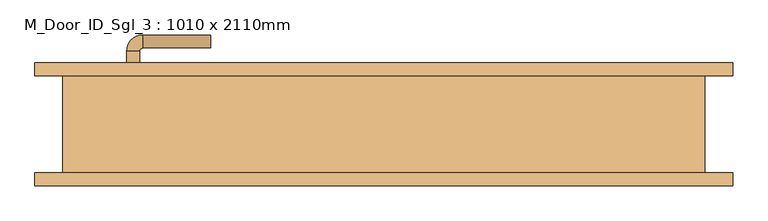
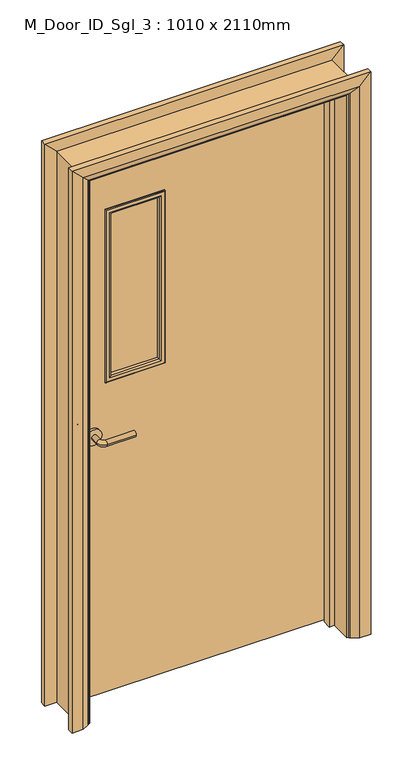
"""IFC4 building model written with IfcOpenShell, lengths in millimetres: door geometry, M_Door_ID_Sgl_3 : 1010 x 2110mm."""

import ifcopenshell
import ifcopenshell.guid

model = None  # the IFC model being written
_history = None  # IfcOwnerHistory: only IFC2X3 demands one
_inside = {}  # id of a spatial element -> (the spatial element, [elements in it])
_under = {}  # id of a project, library or spatial element -> (it, [spatial elements below it])
_declared = {}  # id of a project -> (the project, [libraries it declares])
_typed = {}  # id of a type object -> (the type object, [elements of that type])
_made_of = {}  # id of a material, layer set ... -> (it, [elements and type objects made of it])


def new_model(schema):
    """Start an empty IFC model of exactly this schema.

    Asked for "IFC4X3", IfcOpenShell would pick the latest addendum, in which some entities
    have other attributes; the version numbers below select the first issue.
    IFC2X3 requires an IfcOwnerHistory on every rooted entity: one is made here for all.
    """
    global model, _history
    if schema == "IFC4X3":
        model = ifcopenshell.file(schema_version=(4, 3, 0, 0))
    else:
        model = ifcopenshell.file(schema=schema)
    _inside.clear()
    _under.clear()
    _declared.clear()
    _typed.clear()
    _made_of.clear()
    _history = None
    if model.schema == "IFC2X3":
        org = make("IfcOrganization", Name="unknown")
        user = make(
            "IfcPersonAndOrganization",
            ThePerson=make("IfcPerson", FamilyName="unknown"),
            TheOrganization=org,
        )
        app = make(
            "IfcApplication",
            ApplicationDeveloper=org,
            Version="unknown",
            ApplicationFullName="unknown",
            ApplicationIdentifier="unknown",
        )
        _history = make(
            "IfcOwnerHistory",
            OwningUser=user,
            OwningApplication=app,
            ChangeAction="ADDED",
            CreationDate=0,
        )
    return model


def make(cls, **values):
    """One entity of the class cls with the attributes given. An attribute that is None is left unset."""
    return model.create_entity(
        cls, **{name: value for name, value in values.items() if value is not None}
    )


def rooted(cls, **values):
    """An entity with a GlobalId (a new one), such as an element, a storey or a relation."""
    return make(cls, GlobalId=ifcopenshell.guid.new(), OwnerHistory=_history, **values)


def si_unit(unit_type, name, prefix=None):
    """IfcSIUnit, for example si_unit("LENGTHUNIT", "METRE", prefix="MILLI")."""
    return make("IfcSIUnit", UnitType=unit_type, Prefix=prefix, Name=name)


def assignment(units):
    """IfcUnitAssignment: the units of a project."""
    return None if units is None else make("IfcUnitAssignment", Units=units)


def point(xyz):
    """IfcCartesianPoint."""
    return None if xyz is None else make("IfcCartesianPoint", Coordinates=xyz)


def direction(xyz):
    """IfcDirection."""
    return None if xyz is None else make("IfcDirection", DirectionRatios=xyz)


def frame(location, z_axis=None, x_axis=None):
    """IfcAxis2Placement3D, a coordinate frame: its origin and axes. An axis left out is left unset."""
    return make(
        "IfcAxis2Placement3D",
        Location=point(location),
        Axis=direction(z_axis),
        RefDirection=direction(x_axis),
    )


def frame_2d(location, x_axis=None):
    """IfcAxis2Placement2D, a coordinate frame in the plane: its origin and x axis."""
    return make(
        "IfcAxis2Placement2D", Location=point(location), RefDirection=direction(x_axis)
    )


def origin():
    """The frame at (0, 0, 0) with its axes left unset."""
    return frame((0.0, 0.0, 0.0))


def place(relative_to, where):
    """IfcLocalPlacement: puts the frame where relative to a parent placement (None: the world)."""
    return make(
        "IfcLocalPlacement", PlacementRelTo=relative_to, RelativePlacement=where
    )


def context(
    kind, dimensions, precision=None, world=None, true_north=None, identifier=None
):
    """IfcGeometricRepresentationContext, for example the 3D "Model" context."""
    return make(
        "IfcGeometricRepresentationContext",
        ContextIdentifier=identifier,
        ContextType=kind,
        CoordinateSpaceDimension=dimensions,
        Precision=precision,
        WorldCoordinateSystem=world,
        TrueNorth=true_north,
    )


def project(units=None, contexts=None):
    """IfcProject with its units and contexts."""
    return rooted(
        "IfcProject",
        Name="project",
        RepresentationContexts=contexts,
        UnitsInContext=assignment(units),
    )


def spatial(cls, under=None, at=None, **own):
    """A site, building, storey or space (cls), placed at a placement, below another one or the project."""
    s = rooted(cls, ObjectPlacement=at, **own)
    if under is not None:
        _under.setdefault(under.id(), (under, []))[1].append(s)
    return s


def polyline(points):
    """IfcPolyline through the points."""
    return make("IfcPolyline", Points=[point(p) for p in points])


def circle_curve(where, radius):
    """IfcCircle in the frame where."""
    return make("IfcCircle", Position=where, Radius=radius)


def ellipse_curve(where, semi_axis1, semi_axis2):
    """IfcEllipse in the frame where."""
    return make(
        "IfcEllipse", Position=where, SemiAxis1=semi_axis1, SemiAxis2=semi_axis2
    )


def trimmed(basis, trim1, trim2, sense, master):
    """IfcTrimmedCurve: the piece of a basis curve between two trims."""
    return make(
        "IfcTrimmedCurve",
        BasisCurve=basis,
        Trim1=trim1,
        Trim2=trim2,
        SenseAgreement=sense,
        MasterRepresentation=master,
    )


def segment(curve, same_sense, transition):
    """IfcCompositeCurveSegment."""
    return make(
        "IfcCompositeCurveSegment",
        Transition=transition,
        SameSense=same_sense,
        ParentCurve=curve,
    )


def composite_curve(segments, self_intersect=None):
    """IfcCompositeCurve: segments joined end to end."""
    return make("IfcCompositeCurve", Segments=segments, SelfIntersect=self_intersect)


def outline(outer, holes=None, kind="AREA"):
    """IfcArbitraryClosedProfileDef: a profile drawn as a closed curve; with holes, ...WithVoids."""
    if holes is None:
        return make("IfcArbitraryClosedProfileDef", ProfileType=kind, OuterCurve=outer)
    return make(
        "IfcArbitraryProfileDefWithVoids",
        ProfileType=kind,
        OuterCurve=outer,
        InnerCurves=holes,
    )


def extrude(swept, where, along, depth):
    """IfcExtrudedAreaSolid: the profile swept, set in the frame where, extruded along a direction by depth."""
    return make(
        "IfcExtrudedAreaSolid",
        SweptArea=swept,
        Position=where,
        ExtrudedDirection=direction(along),
        Depth=depth,
    )


def faces_of(points, faces, orient=None, outer=None):
    """IfcFace entities. A face is a list of loops; a loop is a list of indices into points, from 0.

    orient and outer hold one flag for each loop. By default every Orientation is true, the
    first loop of a face is its IfcFaceOuterBound and the others are IfcFaceBound.
    """
    made = []
    for i, loops in enumerate(faces):
        bounds = []
        for j, loop in enumerate(loops):
            is_outer = j == 0 if outer is None else outer[i][j]
            bounds.append(
                make(
                    "IfcFaceOuterBound" if is_outer else "IfcFaceBound",
                    Bound=make("IfcPolyLoop", Polygon=[points[k] for k in loop]),
                    Orientation=True if orient is None else orient[i][j],
                )
            )
        made.append(make("IfcFace", Bounds=bounds))
    return made


def faceted_brep(points, faces, orient=None, outer=None, voids=None):
    """IfcFacetedBrep: a solid bounded by flat faces; with voids (closed shells), ...WithVoids."""
    shared = [point(p) for p in points]
    hull = make("IfcClosedShell", CfsFaces=faces_of(shared, faces, orient, outer))
    if voids is None:
        return make("IfcFacetedBrep", Outer=hull)
    return make(
        "IfcFacetedBrepWithVoids",
        Outer=hull,
        Voids=[
            make(cls, CfsFaces=faces_of(shared, fs, o, b)) for cls, fs, o, b in voids
        ],
    )


def shape(context_of_items, identifier, shape_type, items):
    """IfcShapeRepresentation: the items that make up one representation, for example the "Body"."""
    return make(
        "IfcShapeRepresentation",
        ContextOfItems=context_of_items,
        RepresentationIdentifier=identifier,
        RepresentationType=shape_type,
        Items=items,
    )


def source(mapping_origin, context_of_items, identifier, shape_type, items):
    """IfcRepresentationMap: a shape defined once, which mapped items show again and again."""
    return make(
        "IfcRepresentationMap",
        MappingOrigin=mapping_origin,
        MappedRepresentation=shape(context_of_items, identifier, shape_type, items),
    )


def transform(
    local_origin,
    x_axis=None,
    y_axis=None,
    z_axis=None,
    scale=None,
    scale2=None,
    scale3=None,
    uniform=True,
):
    """IfcCartesianTransformationOperator3D, or its non-uniform kind. x_axis, y_axis, z_axis: its Axis1, 2, 3."""
    if uniform:
        return make(
            "IfcCartesianTransformationOperator3D",
            Axis1=direction(x_axis),
            Axis2=direction(y_axis),
            LocalOrigin=point(local_origin),
            Scale=scale,
            Axis3=direction(z_axis),
        )
    return make(
        "IfcCartesianTransformationOperator3DnonUniform",
        Axis1=direction(x_axis),
        Axis2=direction(y_axis),
        LocalOrigin=point(local_origin),
        Scale=scale,
        Axis3=direction(z_axis),
        Scale2=scale2,
        Scale3=scale3,
    )


def mapped(mapping_source, mapping_target):
    """IfcMappedItem: shows the shape of a source again, moved by a transform."""
    return make(
        "IfcMappedItem", MappingSource=mapping_source, MappingTarget=mapping_target
    )


def made_of(thing, what):
    """Note that an element or type object is made of a material, layer set ...; save() writes the relation."""
    if what is not None:
        _made_of.setdefault(what.id(), (what, []))[1].append(thing)
    return thing


def element(
    cls,
    number,
    at=None,
    inside=None,
    cuts=None,
    type_object=None,
    material=None,
    context=None,
    identifier="Body",
    shape_type=None,
    held_by="IfcProductDefinitionShape",
    body=None,
    shapes=None,
    **own,
):
    """One element of the class cls, such as IfcWall. Its Tag is "e" and its number.

    at: its placement. inside: the storey or other place that contains it. cuts: it is an
    opening in that element (IfcRelVoidsElement). A single representation is given by context,
    identifier, shape_type and body (its items); several are given by shapes. held_by: the class
    of the entity that holds the representations. save() writes the other relations.
    """
    e = rooted(cls, Tag="e%d" % number, ObjectPlacement=at, **own)
    if body is not None:
        shapes = [shape(context, identifier, shape_type, body)]
    if shapes is not None:
        e.Representation = make(held_by, Representations=shapes)
    if inside is not None:
        _inside.setdefault(inside.id(), (inside, []))[1].append(e)
    if cuts is not None:
        rooted(
            "IfcRelVoidsElement", RelatingBuildingElement=cuts, RelatedOpeningElement=e
        )
    if type_object is not None:
        _typed.setdefault(type_object.id(), (type_object, []))[1].append(e)
    return made_of(e, material)


def aggregate(whole, parts):
    """IfcRelAggregates: a whole, such as a stair, and the parts it consists of."""
    return rooted("IfcRelAggregates", RelatingObject=whole, RelatedObjects=parts)


def save(model, path):
    """Write the relations noted so far, then the file.

    IfcRelAggregates (storeys below a building ...), IfcRelContainedInSpatialStructure (elements
    in a storey), IfcRelDefinesByType, IfcRelAssociatesMaterial and IfcRelDeclares: one each for
    every whole, place, type object, material and project.
    """
    for whole, parts in _under.values():
        aggregate(whole, parts)
    for where, things in _inside.values():
        rooted(
            "IfcRelContainedInSpatialStructure",
            RelatedElements=things,
            RelatingStructure=where,
        )
    for kind, things in _typed.values():
        rooted("IfcRelDefinesByType", RelatedObjects=things, RelatingType=kind)
    for what, things in _made_of.values():
        rooted("IfcRelAssociatesMaterial", RelatedObjects=things, RelatingMaterial=what)
    for by, libraries in _declared.values():
        rooted("IfcRelDeclares", RelatingContext=by, RelatedDefinitions=libraries)
    model.write(path)


def plane_surface(at):
    """IfcPlane: the flat surface through the origin of the frame at, square to its z axis."""
    return make("IfcPlane", Position=at)


def cylinder_surface(at, radius):
    """IfcCylindricalSurface: all points at the distance radius from the z axis of the frame at."""
    return make("IfcCylindricalSurface", Position=at, Radius=radius)


def revolved_surface(curve, axis_point, axis_direction):
    """IfcSurfaceOfRevolution: the curve turned about the line through axis_point along axis_direction."""
    return make(
        "IfcSurfaceOfRevolution",
        SweptCurve=make("IfcArbitraryOpenProfileDef", ProfileType="CURVE", Curve=curve),
        AxisPosition=make("IfcAxis1Placement", Location=point(axis_point), Axis=direction(axis_direction)),
    )


def advanced_brep(points, edges, surfaces, faces):
    """IfcAdvancedBrep: a solid bounded by faces that lie on surfaces and meet in shared edges.

    An edge is (start, end): straight between two places in points (the first is 0);
    or (start, end, curve); or (start, end, curve, False) where it runs against its curve.
    A face is (place in surfaces, loops), or (place, loops, False) where it looks against
    its surface's normal. A loop lists edges by number (the first is 1), with a minus sign
    where the edge is run from its end to its start. The first loop is the outer one.
    """
    corners = [point(p) for p in points]
    vertices = [make("IfcVertexPoint", VertexGeometry=c) for c in corners]
    made = []
    for start, end, *more in edges:
        made.append(
            make(
                "IfcEdgeCurve",
                EdgeStart=vertices[start],
                EdgeEnd=vertices[end],
                EdgeGeometry=more[0] if more else make("IfcPolyline", Points=[corners[start], corners[end]]),
                SameSense=more[1] if len(more) > 1 else True,
            )
        )
    hull = []
    for where, loops, *sense in faces:
        bounds = []
        for j, loop in enumerate(loops):
            ring = [make("IfcOrientedEdge", EdgeElement=made[abs(k) - 1], Orientation=k > 0) for k in loop]
            bounds.append(
                make(
                    "IfcFaceOuterBound" if j == 0 else "IfcFaceBound",
                    Bound=make("IfcEdgeLoop", EdgeList=ring),
                    Orientation=True,
                )
            )
        hull.append(make("IfcAdvancedFace", Bounds=bounds, FaceSurface=surfaces[where], SameSense=sense[0] if sense else True))
    return make("IfcAdvancedBrep", Outer=make("IfcClosedShell", CfsFaces=hull))


def m_door_id_sgl_3_1010_x_2110mm_00445be7(model_context):
    return source(origin(), model_context, "Body", "SolidModel", [
        advanced_brep(
        [(-398.0, 29.0, 1000.0), (-378.0, 29.0, 1000.0), (-378.0, -1.0, 1000.0), (-398.0, -1.0, 1000.0), (-373.0, -6.0, 1000.0), (-373.0, -26.0, 1000.0), (-268.0, -26.0, 1000.0), (-268.0, -6.0, 1000.0)],
        [
            (0, 1, circle_curve(frame((-388.0, 29.0, 1000.0), z_axis=(0.0, 1.0, 0.0), x_axis=(1.0, 0.0, 0.0)), 10.0)),
            (1, 0, circle_curve(frame((-388.0, 29.0, 1000.0), z_axis=(0.0, 1.0, 0.0), x_axis=(1.0, 0.0, 0.0)), 10.0)),
            (1, 2),
            (2, 3, circle_curve(frame((-388.0, -1.0, 1000.0), z_axis=(0.0, 1.0, 0.0), x_axis=(1.0, 0.0, 0.0)), 10.0)),
            (3, 0),
            (3, 2, circle_curve(frame((-388.0, -1.0, 1000.0), z_axis=(0.0, 1.0, 0.0), x_axis=(1.0, 0.0, 0.0)), 10.0)),
            (4, 5, circle_curve(frame((-373.0, -16.0, 1000.0), z_axis=(-1.0, 0.0, 0.0), x_axis=(0.0, 1.0, 0.0)), 10.0)),
            (5, 3, circle_curve(frame((-373.0, -1.0, 1000.0), z_axis=(0.0, 0.0, -1.0), x_axis=(-1.0, 0.0, 0.0)), 25.0)),
            (2, 4, circle_curve(frame((-373.0, -1.0, 1000.0), z_axis=(0.0, 0.0, 1.0), x_axis=(-1.0, 0.0, 0.0)), 5.0)),
            (5, 4, circle_curve(frame((-373.0, -16.0, 1000.0), z_axis=(-1.0, 0.0, 0.0), x_axis=(0.0, 1.0, 0.0)), 10.0)),
            (6, 7, circle_curve(frame((-268.0, -16.0, 1000.0), z_axis=(1.0, 0.0, 0.0), x_axis=(0.0, 1.0, 0.0)), 10.0)),
            (7, 6, circle_curve(frame((-268.0, -16.0, 1000.0), z_axis=(1.0, 0.0, 0.0), x_axis=(0.0, 1.0, 0.0)), 10.0)),
            (4, 7),
            (6, 5),
        ],
        [
            plane_surface(frame((-388.0, 29.0, 1000.0), z_axis=(0.0, 1.0, 0.0), x_axis=(0.0, 0.0, 1.0))),
            cylinder_surface(frame((-388.0, 29.0, 1000.0), z_axis=(0.0, 1.0, 0.0), x_axis=(1.0, 0.0, 0.0)), 10.0),
            revolved_surface(trimmed(ellipse_curve(frame((-388.0, -1.0, 1000.0), z_axis=(0.0, -1.0, 0.0), x_axis=(1.0, 0.0, 0.0)), 10.0, 10.0), [point((-398.0, -1.0, 1000.0))], [point((-378.0, -1.0, 1000.0))], True, "CARTESIAN"), (-373.0, -1.0, 1000.0), (0.0, 0.0, -1.0)),
            revolved_surface(trimmed(ellipse_curve(frame((-388.0, -1.0, 1000.0), z_axis=(0.0, -1.0, 0.0), x_axis=(1.0, 0.0, 0.0)), 10.0, 10.0), [point((-378.0, -1.0, 1000.0))], [point((-398.0, -1.0, 1000.0))], True, "CARTESIAN"), (-373.0, -1.0, 1000.0), (0.0, 0.0, -1.0)),
            plane_surface(frame((-268.0, -16.0, 1000.0), z_axis=(1.0, 0.0, 0.0), x_axis=(0.0, 0.0, 1.0))),
            cylinder_surface(frame((-373.0, -16.0, 1000.0), z_axis=(-1.0, 0.0, 0.0), x_axis=(0.0, 1.0, 0.0)), 10.0),
        ],
        [
            (0, [[1, 2]]),
            (1, [[3, 4, 5, -2]]),
            (1, [[-5, 6, -3, -1]]),
            (2, [[7, 8, -4, 9]]),
            (3, [[10, -9, -6, -8]]),
            (4, [[11, 12]]),
            (5, [[13, -11, 14, -7]]),
            (5, [[-14, -12, -13, -10]]),
        ],
    ),
        extrude(outline(composite_curve([segment(trimmed(circle_curve(frame_2d((1000.0, -390.5)), 30.0), [point((1000.0, -420.5))], [point((1000.0, -360.5))], False, "CARTESIAN"), True, "CONTINUOUS"), segment(trimmed(circle_curve(frame_2d((1000.0, -390.5)), 30.0), [point((1000.0, -360.5))], [point((1000.0, -420.5))], False, "CARTESIAN"), True, "CONTINUOUS")], self_intersect=False)), frame((0.0, 29.0, 0.0), z_axis=(0.0, 1.0, 0.0), x_axis=(0.0, 0.0, 1.0)), (0.0, 0.0, 1.0), 8.0),
        advanced_brep(
        [(-398.0, 83.0, 1000.0), (-378.0, 83.0, 1000.0), (-398.0, 113.0, 1000.0), (-378.0, 113.0, 1000.0), (-373.0, 118.0, 1000.0), (-373.0, 138.0, 1000.0), (-268.0, 138.0, 1000.0), (-268.0, 118.0, 1000.0)],
        [
            (0, 1, circle_curve(frame((-388.0, 83.0, 1000.0), z_axis=(0.0, -1.0, 0.0), x_axis=(1.0, 0.0, 0.0)), 10.0)),
            (1, 0, circle_curve(frame((-388.0, 83.0, 1000.0), z_axis=(0.0, -1.0, 0.0), x_axis=(1.0, 0.0, 0.0)), 10.0)),
            (0, 2),
            (2, 3, circle_curve(frame((-388.0, 113.0, 1000.0), z_axis=(0.0, -1.0, 0.0), x_axis=(1.0, 0.0, 0.0)), 10.0)),
            (3, 1),
            (3, 2, circle_curve(frame((-388.0, 113.0, 1000.0), z_axis=(0.0, -1.0, 0.0), x_axis=(1.0, 0.0, 0.0)), 10.0)),
            (4, 3, circle_curve(frame((-373.0, 113.0, 1000.0), z_axis=(0.0, 0.0, 1.0), x_axis=(-1.0, 0.0, 0.0)), 5.0)),
            (2, 5, circle_curve(frame((-373.0, 113.0, 1000.0), z_axis=(0.0, 0.0, -1.0), x_axis=(-1.0, 0.0, 0.0)), 25.0)),
            (5, 4, circle_curve(frame((-373.0, 128.0, 1000.0), z_axis=(-1.0, 0.0, 0.0), x_axis=(0.0, -1.0, 0.0)), 10.0)),
            (4, 5, circle_curve(frame((-373.0, 128.0, 1000.0), z_axis=(-1.0, 0.0, 0.0), x_axis=(0.0, -1.0, 0.0)), 10.0)),
            (6, 7, circle_curve(frame((-268.0, 128.0, 1000.0), z_axis=(1.0, 0.0, 0.0), x_axis=(0.0, -1.0, 0.0)), 10.0)),
            (7, 6, circle_curve(frame((-268.0, 128.0, 1000.0), z_axis=(1.0, 0.0, 0.0), x_axis=(0.0, -1.0, 0.0)), 10.0)),
            (5, 6),
            (7, 4),
        ],
        [
            plane_surface(frame((-388.0, 83.0, 1000.0), z_axis=(0.0, -1.0, 0.0), x_axis=(0.0, 0.0, 1.0))),
            cylinder_surface(frame((-388.0, 83.0, 1000.0), z_axis=(0.0, -1.0, 0.0), x_axis=(1.0, 0.0, 0.0)), 10.0),
            revolved_surface(trimmed(ellipse_curve(frame((-388.0, 113.0, 1000.0), z_axis=(0.0, -1.0, 0.0), x_axis=(1.0, 0.0, 0.0)), 10.0, 10.0), [point((-398.0, 113.0, 1000.0))], [point((-378.0, 113.0, 1000.0))], True, "CARTESIAN"), (-373.0, 113.0, 1000.0), (0.0, 0.0, -1.0)),
            revolved_surface(trimmed(ellipse_curve(frame((-388.0, 113.0, 1000.0), z_axis=(0.0, -1.0, 0.0), x_axis=(1.0, 0.0, 0.0)), 10.0, 10.0), [point((-378.0, 113.0, 1000.0))], [point((-398.0, 113.0, 1000.0))], True, "CARTESIAN"), (-373.0, 113.0, 1000.0), (0.0, 0.0, -1.0)),
            plane_surface(frame((-268.0, 128.0, 1000.0), z_axis=(1.0, 0.0, 0.0), x_axis=(0.0, 0.0, 1.0))),
            cylinder_surface(frame((-373.0, 128.0, 1000.0), z_axis=(-1.0, 0.0, 0.0), x_axis=(0.0, -1.0, 0.0)), 10.0),
        ],
        [
            (0, [[1, 2]]),
            (1, [[-1, 3, 4, 5]]),
            (1, [[-2, -5, 6, -3]]),
            (2, [[7, -4, 8, 9]]),
            (3, [[-8, -6, -7, 10]]),
            (4, [[11, 12]]),
            (5, [[-9, 13, -12, 14]]),
            (5, [[-10, -14, -11, -13]]),
        ],
    ),
        extrude(outline(composite_curve([segment(trimmed(circle_curve(frame_2d((1000.0, -390.5)), 30.0), [point((1000.0, -420.5))], [point((1000.0, -360.5))], False, "CARTESIAN"), True, "CONTINUOUS"), segment(trimmed(circle_curve(frame_2d((1000.0, -390.5)), 30.0), [point((1000.0, -360.5))], [point((1000.0, -420.5))], False, "CARTESIAN"), True, "CONTINUOUS")], self_intersect=False)), frame((0.0, 75.0, 0.0), z_axis=(0.0, 1.0, 0.0), x_axis=(0.0, 0.0, 1.0)), (0.0, 0.0, 1.0), 8.0),
        extrude(outline(polyline([(2068.0, -463.0), (8.0, -463.0), (8.0, 463.0), (2068.0, 463.0), (2068.0, -463.0)]), holes=[polyline([(1843.0, -138.0), (1200.0, -138.0), (1200.0, -338.0), (1843.0, -338.0), (1843.0, -138.0)])]), frame((0.0, 37.0, 0.0), z_axis=(0.0, 1.0, 0.0), x_axis=(0.0, 0.0, 1.0)), (0.0, 0.0, 1.0), 38.0),
        faceted_brep([(-465.0, 75.0, 0.0), (-465.0, -75.0, 0.0), (-497.0, -75.0, 0.0), (-497.0, 75.0, 0.0), (-465.0, 75.0, 2070.0), (-465.0, -75.0, 2070.0), (-497.0, -75.0, 2102.0), (-497.0, 75.0, 2102.0), (465.0, 75.0, 0.0), (497.0, 75.0, 0.0), (497.0, -75.0, 0.0), (465.0, -75.0, 0.0), (465.0, 75.0, 2070.0), (497.0, 75.0, 2102.0), (497.0, -75.0, 2102.0), (465.0, -75.0, 2070.0)], [[[0, 1, 2, 3]], [[1, 0, 4, 5]], [[2, 1, 5, 6]], [[3, 2, 6, 7]], [[0, 3, 7, 4]], [[8, 9, 10, 11]], [[12, 13, 9, 8]], [[13, 14, 10, 9]], [[14, 15, 11, 10]], [[15, 12, 8, 11]], [[5, 4, 12, 15]], [[6, 5, 15, 14]], [[7, 6, 14, 13]], [[4, 7, 13, 12]]]),
        advanced_brep(
        [(-540.0, -95.0, 0.0), (-540.0, -75.0, 0.0), (-470.0, -75.0, 0.0), (-474.0, -81.0, 0.0), (-500.0, -95.0, 0.0), (-540.0, -95.0, 2145.0), (-540.0, -75.0, 2145.0), (-470.0, -75.0, 2075.0), (-474.0, -81.0, 2079.0), (-500.0, -95.0, 2105.0), (540.0, -95.0, 0.0), (500.0, -95.0, 0.0), (474.0, -81.0, 0.0), (470.0, -75.0, 0.0), (540.0, -75.0, 0.0), (540.0, -95.0, 2145.0), (500.0, -95.0, 2105.0), (474.0, -81.0, 2079.0), (470.0, -75.0, 2075.0), (540.0, -75.0, 2145.0)],
        [
            (0, 1),
            (1, 2),
            (2, 3, circle_curve(frame((-478.0, -74.0, 0.0), z_axis=(0.0, 0.0, -1.0), x_axis=(-1.0, 0.0, 0.0)), 8.0622577)),
            (3, 4),
            (4, 0),
            (0, 5),
            (5, 6),
            (6, 1),
            (6, 7),
            (7, 2),
            (7, 8, ellipse_curve(frame((-478.0, -74.0, 2083.0), z_axis=(-0.7071067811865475, 0.0, -0.7071067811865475), x_axis=(0.7071067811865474, 0.0, -0.7071067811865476)), 11.4017543, 8.0622577)),
            (8, 3),
            (8, 9),
            (9, 4),
            (9, 5),
            (10, 11),
            (11, 12),
            (12, 13, circle_curve(frame((478.0, -74.0, 0.0), z_axis=(0.0, 0.0, -1.0), x_axis=(1.0, 0.0, 0.0)), 8.0622577)),
            (13, 14),
            (14, 10),
            (15, 16),
            (16, 11),
            (10, 15),
            (16, 17),
            (17, 12),
            (17, 18, ellipse_curve(frame((478.0, -74.0, 2083.0), z_axis=(0.7071067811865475, 0.0, -0.7071067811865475), x_axis=(0.7071067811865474, 0.0, 0.7071067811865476)), 11.4017543, 8.0622577)),
            (18, 13),
            (18, 19),
            (19, 14),
            (19, 15),
            (5, 15),
            (19, 6),
            (18, 7),
            (17, 8),
            (16, 9),
        ],
        [
            plane_surface(frame((-470.0, -147.8010989, 0.0), z_axis=(0.0, 0.0, -1.0), x_axis=(1.0, 0.0, 0.0))),
            plane_surface(frame((-540.0, -95.0, 0.0), z_axis=(-1.0, 0.0, 0.0), x_axis=(0.0, 0.0, 1.0))),
            plane_surface(frame((-540.0, -75.0, 0.0), z_axis=(0.0, 1.0, 0.0), x_axis=(0.0, 0.0, 1.0))),
            cylinder_surface(frame((-478.0, -74.0, 0.0), z_axis=(0.0, 0.0, -1.0), x_axis=(-1.0, 0.0, 0.0)), 8.0622577),
            plane_surface(frame((-474.0, -81.0, 0.0), z_axis=(0.4740998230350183, -0.8804710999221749, 0.0), x_axis=(0.0, 0.0, 1.0))),
            plane_surface(frame((-500.0, -95.0, 0.0), z_axis=(0.0, -1.0, 0.0), x_axis=(0.0, 0.0, 1.0))),
            plane_surface(frame((470.0, -147.8010989, 0.0), z_axis=(0.0, 0.0, -1.0), x_axis=(-1.0, 0.0, 0.0))),
            plane_surface(frame((500.0, -95.0, 2105.0), z_axis=(0.0, -1.0, 0.0), x_axis=(0.0, 0.0, -1.0))),
            plane_surface(frame((474.0, -81.0, 2079.0), z_axis=(-0.4740998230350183, -0.8804710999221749, 0.0), x_axis=(0.0, 0.0, -1.0))),
            cylinder_surface(frame((478.0, -74.0, 2075.0), z_axis=(0.0, 0.0, 1.0), x_axis=(1.0, 0.0, 0.0)), 8.0622577),
            plane_surface(frame((540.0, -75.0, 2145.0), z_axis=(0.0, 1.0, 0.0), x_axis=(0.0, 0.0, -1.0))),
            plane_surface(frame((540.0, -95.0, 2145.0), z_axis=(1.0, 0.0, 0.0), x_axis=(0.0, 0.0, -1.0))),
            plane_surface(frame((-540.0, -95.0, 2145.0), z_axis=(0.0, 0.0, 1.0), x_axis=(1.0, 0.0, 0.0))),
            plane_surface(frame((-540.0, -75.0, 2145.0), z_axis=(0.0, 1.0, 0.0), x_axis=(1.0, 0.0, 0.0))),
            cylinder_surface(frame((-470.0, -74.0, 2083.0), z_axis=(-1.0, 0.0, 0.0), x_axis=(0.0, 0.0, 1.0)), 8.0622577),
            plane_surface(frame((-474.0, -81.0, 2079.0), z_axis=(0.0, -0.8804710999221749, -0.4740998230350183), x_axis=(1.0, 0.0, 0.0))),
            plane_surface(frame((-500.0, -95.0, 2105.0), z_axis=(0.0, -1.0, 0.0), x_axis=(1.0, 0.0, 0.0))),
        ],
        [
            (0, [[1, 2, 3, 4, 5]]),
            (1, [[-1, 6, 7, 8]]),
            (2, [[-2, -8, 9, 10]]),
            (3, [[-3, -10, 11, 12]]),
            (4, [[-4, -12, 13, 14]]),
            (5, [[-5, -14, 15, -6]]),
            (6, [[16, 17, 18, 19, 20]]),
            (7, [[21, 22, -16, 23]]),
            (8, [[24, 25, -17, -22]]),
            (9, [[26, 27, -18, -25]]),
            (10, [[28, 29, -19, -27]]),
            (11, [[30, -23, -20, -29]]),
            (12, [[-7, 31, -30, 32]]),
            (13, [[-9, -32, -28, 33]]),
            (14, [[-11, -33, -26, 34]]),
            (15, [[-13, -34, -24, 35]]),
            (16, [[-15, -35, -21, -31]]),
        ],
    ),
        advanced_brep(
        [(-540.0, 95.0, 0.0), (-500.0, 95.0, 0.0), (-474.0, 81.0, 0.0), (-470.0, 75.0, 0.0), (-540.0, 75.0, 0.0), (-540.0, 95.0, 2145.0), (-500.0, 95.0, 2105.0), (-474.0, 81.0, 2079.0), (-470.0, 75.0, 2075.0), (-540.0, 75.0, 2145.0), (540.0, 95.0, 0.0), (540.0, 75.0, 0.0), (470.0, 75.0, 0.0), (474.0, 81.0, 0.0), (500.0, 95.0, 0.0), (540.0, 95.0, 2145.0), (540.0, 75.0, 2145.0), (470.0, 75.0, 2075.0), (474.0, 81.0, 2079.0), (500.0, 95.0, 2105.0)],
        [
            (0, 1),
            (1, 2),
            (2, 3, circle_curve(frame((-478.0, 74.0, 0.0), z_axis=(0.0, 0.0, -1.0), x_axis=(-1.0, 0.0, 0.0)), 8.0622577)),
            (3, 4),
            (4, 0),
            (0, 5),
            (5, 6),
            (6, 1),
            (6, 7),
            (7, 2),
            (7, 8, ellipse_curve(frame((-478.0, 74.0, 2083.0), z_axis=(-0.7071067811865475, 0.0, -0.7071067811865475), x_axis=(0.7071067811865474, 0.0, -0.7071067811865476)), 11.4017543, 8.0622577)),
            (8, 3),
            (8, 9),
            (9, 4),
            (9, 5),
            (10, 11),
            (11, 12),
            (12, 13, circle_curve(frame((478.0, 74.0, 0.0), z_axis=(0.0, 0.0, -1.0), x_axis=(1.0, 0.0, 0.0)), 8.0622577)),
            (13, 14),
            (14, 10),
            (15, 16),
            (16, 11),
            (10, 15),
            (16, 17),
            (17, 12),
            (17, 18, ellipse_curve(frame((478.0, 74.0, 2083.0), z_axis=(0.7071067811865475, 0.0, -0.7071067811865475), x_axis=(0.7071067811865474, 0.0, 0.7071067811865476)), 11.4017543, 8.0622577)),
            (18, 13),
            (18, 19),
            (19, 14),
            (19, 15),
            (5, 15),
            (19, 6),
            (18, 7),
            (17, 8),
            (16, 9),
        ],
        [
            plane_surface(frame((-470.0, 2.1989011, 0.0), z_axis=(0.0, 0.0, -1.0), x_axis=(1.0, 0.0, 0.0))),
            plane_surface(frame((-540.0, 95.0, 0.0), z_axis=(0.0, 1.0, 0.0), x_axis=(0.0, 0.0, 1.0))),
            plane_surface(frame((-500.0, 95.0, 0.0), z_axis=(0.4740998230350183, 0.8804710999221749, 0.0), x_axis=(0.0, 0.0, 1.0))),
            cylinder_surface(frame((-478.0, 74.0, 0.0), z_axis=(0.0, 0.0, -1.0), x_axis=(-1.0, 0.0, 0.0)), 8.0622577),
            plane_surface(frame((-470.0, 75.0, 0.0), z_axis=(0.0, -1.0, 0.0), x_axis=(0.0, 0.0, 1.0))),
            plane_surface(frame((-540.0, 75.0, 0.0), z_axis=(-1.0, 0.0, 0.0), x_axis=(0.0, 0.0, 1.0))),
            plane_surface(frame((470.0, 2.1989011, 0.0), z_axis=(0.0, 0.0, -1.0), x_axis=(-1.0, 0.0, 0.0))),
            plane_surface(frame((540.0, 75.0, 2145.0), z_axis=(1.0, 0.0, 0.0), x_axis=(0.0, 0.0, -1.0))),
            plane_surface(frame((470.0, 75.0, 2075.0), z_axis=(0.0, -1.0, 0.0), x_axis=(0.0, 0.0, -1.0))),
            cylinder_surface(frame((478.0, 74.0, 2075.0), z_axis=(0.0, 0.0, 1.0), x_axis=(1.0, 0.0, 0.0)), 8.0622577),
            plane_surface(frame((500.0, 95.0, 2105.0), z_axis=(-0.4740998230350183, 0.8804710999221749, 0.0), x_axis=(0.0, 0.0, -1.0))),
            plane_surface(frame((540.0, 95.0, 2145.0), z_axis=(0.0, 1.0, 0.0), x_axis=(0.0, 0.0, -1.0))),
            plane_surface(frame((-540.0, 95.0, 2145.0), z_axis=(0.0, 1.0, 0.0), x_axis=(1.0, 0.0, 0.0))),
            plane_surface(frame((-500.0, 95.0, 2105.0), z_axis=(0.0, 0.8804710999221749, -0.4740998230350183), x_axis=(1.0, 0.0, 0.0))),
            cylinder_surface(frame((-470.0, 74.0, 2083.0), z_axis=(-1.0, 0.0, 0.0), x_axis=(0.0, 0.0, 1.0)), 8.0622577),
            plane_surface(frame((-470.0, 75.0, 2075.0), z_axis=(0.0, -1.0, 0.0), x_axis=(1.0, 0.0, 0.0))),
            plane_surface(frame((-540.0, 75.0, 2145.0), z_axis=(0.0, 0.0, 1.0), x_axis=(1.0, 0.0, 0.0))),
        ],
        [
            (0, [[1, 2, 3, 4, 5]]),
            (1, [[-1, 6, 7, 8]]),
            (2, [[-2, -8, 9, 10]]),
            (3, [[-3, -10, 11, 12]]),
            (4, [[-4, -12, 13, 14]]),
            (5, [[-5, -14, 15, -6]]),
            (6, [[16, 17, 18, 19, 20]]),
            (7, [[21, 22, -16, 23]]),
            (8, [[24, 25, -17, -22]]),
            (9, [[26, 27, -18, -25]]),
            (10, [[28, 29, -19, -27]]),
            (11, [[30, -23, -20, -29]]),
            (12, [[-7, 31, -30, 32]]),
            (13, [[-9, -32, -28, 33]]),
            (14, [[-11, -33, -26, 34]]),
            (15, [[-13, -34, -24, 35]]),
            (16, [[-15, -35, -21, -31]]),
        ],
    ),
        extrude(outline(polyline([(0.0, -465.0), (0.0, -446.0), (2051.0, -446.0), (2051.0, 446.0), (0.0, 446.0), (0.0, 465.0), (2070.0, 465.0), (2070.0, -465.0), (0.0, -465.0)])), frame((0.0, 3.0, 0.0), z_axis=(0.0, 1.0, 0.0), x_axis=(0.0, 0.0, 1.0)), (0.0, 0.0, 1.0), 32.0),
        advanced_brep(
        [(-130.0, 79.0, 1851.0), (-130.0, 75.0, 1851.0), (-130.0, 75.0, 1192.0), (-130.0, 79.0, 1192.0), (-132.0, 81.0, 1849.0), (-132.0, 81.0, 1194.0), (-150.0, 76.0, 1831.0), (-145.0, 81.0, 1836.0), (-145.0, 81.0, 1207.0), (-150.0, 76.0, 1212.0), (-150.0, 65.0, 1831.0), (-150.0, 65.0, 1212.0), (-138.0, 75.0, 1843.0), (-138.0, 65.0, 1843.0), (-138.0, 65.0, 1200.0), (-138.0, 75.0, 1200.0), (-346.0, 75.0, 1192.0), (-346.0, 79.0, 1192.0), (-344.0, 81.0, 1194.0), (-331.0, 81.0, 1207.0), (-326.0, 76.0, 1212.0), (-326.0, 65.0, 1212.0), (-338.0, 65.0, 1200.0), (-338.0, 75.0, 1200.0), (-346.0, 75.0, 1851.0), (-346.0, 79.0, 1851.0), (-344.0, 81.0, 1849.0), (-331.0, 81.0, 1836.0), (-326.0, 76.0, 1831.0), (-326.0, 65.0, 1831.0), (-338.0, 65.0, 1843.0), (-338.0, 75.0, 1843.0)],
        [
            (0, 1),
            (1, 2),
            (2, 3),
            (3, 0),
            (4, 0, ellipse_curve(frame((-132.0, 79.0, 1849.0), z_axis=(0.7071067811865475, 0.0, -0.7071067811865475), x_axis=(0.7071067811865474, 0.0, 0.7071067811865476)), 2.8284271, 2.0)),
            (3, 5, ellipse_curve(frame((-132.0, 79.0, 1194.0), z_axis=(0.7071067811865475, 0.0, 0.7071067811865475), x_axis=(-0.7071067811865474, 0.0, 0.7071067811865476)), 2.8284271, 2.0)),
            (5, 4),
            (6, 7, ellipse_curve(frame((-145.0, 76.0, 1836.0), z_axis=(0.7071067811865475, 0.0, -0.7071067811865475), x_axis=(0.7071067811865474, 0.0, 0.7071067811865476)), 7.0710678, 5.0)),
            (7, 8),
            (8, 9, ellipse_curve(frame((-145.0, 76.0, 1207.0), z_axis=(0.7071067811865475, 0.0, 0.7071067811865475), x_axis=(-0.7071067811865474, 0.0, 0.7071067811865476)), 7.0710678, 5.0)),
            (9, 6),
            (10, 6),
            (9, 11),
            (11, 10),
            (12, 13),
            (13, 14),
            (14, 15),
            (15, 12),
            (2, 16),
            (16, 17),
            (17, 3),
            (17, 18, ellipse_curve(frame((-344.0, 79.0, 1194.0), z_axis=(0.7071067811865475, 0.0, -0.7071067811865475), x_axis=(0.7071067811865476, 0.0, 0.7071067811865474)), 2.8284271, 2.0)),
            (18, 5),
            (8, 19),
            (19, 20, ellipse_curve(frame((-331.0, 76.0, 1207.0), z_axis=(0.7071067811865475, 0.0, -0.7071067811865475), x_axis=(0.7071067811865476, 0.0, 0.7071067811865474)), 7.0710678, 5.0)),
            (20, 9),
            (20, 21),
            (21, 11),
            (14, 22),
            (22, 23),
            (23, 15),
            (16, 24),
            (24, 25),
            (25, 17),
            (25, 26, ellipse_curve(frame((-344.0, 79.0, 1849.0), z_axis=(-0.7071067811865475, 0.0, -0.7071067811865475), x_axis=(0.7071067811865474, 0.0, -0.7071067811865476)), 2.8284271, 2.0)),
            (26, 18),
            (19, 27),
            (27, 28, ellipse_curve(frame((-331.0, 76.0, 1836.0), z_axis=(-0.7071067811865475, 0.0, -0.7071067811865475), x_axis=(0.7071067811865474, 0.0, -0.7071067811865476)), 7.0710678, 5.0)),
            (28, 20),
            (28, 29),
            (29, 21),
            (22, 30),
            (30, 31),
            (31, 23),
            (24, 1),
            (0, 25),
            (4, 26),
            (7, 27),
            (6, 28),
            (10, 29),
            (13, 30),
            (12, 31),
        ],
        [
            plane_surface(frame((-130.0, 75.0, 1851.0), z_axis=(1.0, 0.0, 0.0), x_axis=(0.0, 0.0, -1.0))),
            cylinder_surface(frame((-132.0, 79.0, 1843.0), z_axis=(0.0, 0.0, 1.0), x_axis=(1.0, 0.0, 0.0)), 2.0),
            cylinder_surface(frame((-145.0, 76.0, 1843.0), z_axis=(0.0, 0.0, 1.0), x_axis=(1.0, 0.0, 0.0)), 5.0),
            plane_surface(frame((-150.0, 76.0, 1831.0), z_axis=(-1.0, 0.0, 0.0), x_axis=(0.0, 0.0, -1.0))),
            plane_surface(frame((-138.0, 65.0, 1843.0), z_axis=(1.0, 0.0, 0.0), x_axis=(0.0, 0.0, -1.0))),
            plane_surface(frame((-130.0, 75.0, 1192.0), z_axis=(0.0, 0.0, -1.0), x_axis=(-1.0, 0.0, 0.0))),
            cylinder_surface(frame((-138.0, 79.0, 1194.0), z_axis=(1.0, 0.0, 0.0), x_axis=(0.0, 0.0, -1.0)), 2.0),
            cylinder_surface(frame((-138.0, 76.0, 1207.0), z_axis=(1.0, 0.0, 0.0), x_axis=(0.0, 0.0, -1.0)), 5.0),
            plane_surface(frame((-150.0, 76.0, 1212.0), z_axis=(0.0, 0.0, 1.0), x_axis=(-1.0, 0.0, 0.0))),
            plane_surface(frame((-138.0, 65.0, 1200.0), z_axis=(0.0, 0.0, -1.0), x_axis=(-1.0, 0.0, 0.0))),
            plane_surface(frame((-346.0, 75.0, 1192.0), z_axis=(-1.0, 0.0, 0.0), x_axis=(0.0, 0.0, 1.0))),
            cylinder_surface(frame((-344.0, 79.0, 1200.0), z_axis=(0.0, 0.0, -1.0), x_axis=(-1.0, 0.0, 0.0)), 2.0),
            cylinder_surface(frame((-331.0, 76.0, 1200.0), z_axis=(0.0, 0.0, -1.0), x_axis=(-1.0, 0.0, 0.0)), 5.0),
            plane_surface(frame((-326.0, 76.0, 1212.0), z_axis=(1.0, 0.0, 0.0), x_axis=(0.0, 0.0, 1.0))),
            plane_surface(frame((-338.0, 65.0, 1200.0), z_axis=(-1.0, 0.0, 0.0), x_axis=(0.0, 0.0, 1.0))),
            plane_surface(frame((-346.0, 75.0, 1851.0), z_axis=(0.0, 0.0, 1.0), x_axis=(1.0, 0.0, 0.0))),
            cylinder_surface(frame((-338.0, 79.0, 1849.0), z_axis=(-1.0, 0.0, 0.0), x_axis=(0.0, 0.0, 1.0)), 2.0),
            plane_surface(frame((-344.0, 81.0, 1849.0), z_axis=(0.0, 1.0, 0.0), x_axis=(1.0, 0.0, 0.0))),
            cylinder_surface(frame((-338.0, 76.0, 1836.0), z_axis=(-1.0, 0.0, 0.0), x_axis=(0.0, 0.0, 1.0)), 5.0),
            plane_surface(frame((-326.0, 76.0, 1831.0), z_axis=(0.0, 0.0, -1.0), x_axis=(1.0, 0.0, 0.0))),
            plane_surface(frame((-326.0, 65.0, 1831.0), z_axis=(0.0, -1.0, 0.0), x_axis=(1.0, 0.0, 0.0))),
            plane_surface(frame((-338.0, 65.0, 1843.0), z_axis=(0.0, 0.0, 1.0), x_axis=(1.0, 0.0, 0.0))),
            plane_surface(frame((-338.0, 75.0, 1843.0), z_axis=(0.0, -1.0, 0.0), x_axis=(1.0, 0.0, 0.0))),
        ],
        [
            (0, [[1, 2, 3, 4]]),
            (1, [[5, -4, 6, 7]]),
            (2, [[8, 9, 10, 11]]),
            (3, [[12, -11, 13, 14]]),
            (4, [[15, 16, 17, 18]]),
            (5, [[-3, 19, 20, 21]]),
            (6, [[-6, -21, 22, 23]]),
            (7, [[-10, 24, 25, 26]]),
            (8, [[-13, -26, 27, 28]]),
            (9, [[-17, 29, 30, 31]]),
            (10, [[-20, 32, 33, 34]]),
            (11, [[-22, -34, 35, 36]]),
            (12, [[-25, 37, 38, 39]]),
            (13, [[-27, -39, 40, 41]]),
            (14, [[-30, 42, 43, 44]]),
            (15, [[-33, 45, -1, 46]]),
            (16, [[-35, -46, -5, 47]]),
            (17, [[-23, -36, -47, -7], [48, -37, -24, -9]]),
            (18, [[-38, -48, -8, 49]]),
            (19, [[-40, -49, -12, 50]]),
            (20, [[51, -42, -29, -16], [-28, -41, -50, -14]]),
            (21, [[-43, -51, -15, 52]]),
            (22, [[-45, -32, -19, -2], [-31, -44, -52, -18]]),
        ],
    ),
        advanced_brep(
        [(-138.0, 47.0, 1843.0), (-138.0, 37.0, 1843.0), (-138.0, 37.0, 1200.0), (-138.0, 47.0, 1200.0), (-150.0, 36.0, 1831.0), (-150.0, 47.0, 1831.0), (-150.0, 47.0, 1212.0), (-150.0, 36.0, 1212.0), (-145.0, 31.0, 1836.0), (-145.0, 31.0, 1207.0), (-130.0, 33.0, 1851.0), (-132.0, 31.0, 1849.0), (-132.0, 31.0, 1194.0), (-130.0, 33.0, 1192.0), (-130.0, 37.0, 1851.0), (-130.0, 37.0, 1192.0), (-338.0, 37.0, 1200.0), (-338.0, 47.0, 1200.0), (-326.0, 47.0, 1212.0), (-326.0, 36.0, 1212.0), (-331.0, 31.0, 1207.0), (-344.0, 31.0, 1194.0), (-346.0, 33.0, 1192.0), (-346.0, 37.0, 1192.0), (-338.0, 37.0, 1843.0), (-338.0, 47.0, 1843.0), (-326.0, 47.0, 1831.0), (-326.0, 36.0, 1831.0), (-331.0, 31.0, 1836.0), (-344.0, 31.0, 1849.0), (-346.0, 33.0, 1851.0), (-346.0, 37.0, 1851.0)],
        [
            (0, 1),
            (1, 2),
            (2, 3),
            (3, 0),
            (4, 5),
            (5, 6),
            (6, 7),
            (7, 4),
            (8, 4, ellipse_curve(frame((-145.0, 36.0, 1836.0), z_axis=(0.7071067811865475, 0.0, -0.7071067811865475), x_axis=(0.7071067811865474, 0.0, 0.7071067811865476)), 7.0710678, 5.0)),
            (7, 9, ellipse_curve(frame((-145.0, 36.0, 1207.0), z_axis=(0.7071067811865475, 0.0, 0.7071067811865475), x_axis=(-0.7071067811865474, 0.0, 0.7071067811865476)), 7.0710678, 5.0)),
            (9, 8),
            (10, 11, ellipse_curve(frame((-132.0, 33.0, 1849.0), z_axis=(0.7071067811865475, 0.0, -0.7071067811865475), x_axis=(0.7071067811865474, 0.0, 0.7071067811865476)), 2.8284271, 2.0)),
            (11, 12),
            (12, 13, ellipse_curve(frame((-132.0, 33.0, 1194.0), z_axis=(0.7071067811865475, 0.0, 0.7071067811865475), x_axis=(-0.7071067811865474, 0.0, 0.7071067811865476)), 2.8284271, 2.0)),
            (13, 10),
            (14, 10),
            (13, 15),
            (15, 14),
            (2, 16),
            (16, 17),
            (17, 3),
            (6, 18),
            (18, 19),
            (19, 7),
            (19, 20, ellipse_curve(frame((-331.0, 36.0, 1207.0), z_axis=(0.7071067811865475, 0.0, -0.7071067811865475), x_axis=(0.7071067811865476, 0.0, 0.7071067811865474)), 7.0710678, 5.0)),
            (20, 9),
            (12, 21),
            (21, 22, ellipse_curve(frame((-344.0, 33.0, 1194.0), z_axis=(0.7071067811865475, 0.0, -0.7071067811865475), x_axis=(0.7071067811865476, 0.0, 0.7071067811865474)), 2.8284271, 2.0)),
            (22, 13),
            (22, 23),
            (23, 15),
            (16, 24),
            (24, 25),
            (25, 17),
            (18, 26),
            (26, 27),
            (27, 19),
            (27, 28, ellipse_curve(frame((-331.0, 36.0, 1836.0), z_axis=(-0.7071067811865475, 0.0, -0.7071067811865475), x_axis=(0.7071067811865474, 0.0, -0.7071067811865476)), 7.0710678, 5.0)),
            (28, 20),
            (21, 29),
            (29, 30, ellipse_curve(frame((-344.0, 33.0, 1849.0), z_axis=(-0.7071067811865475, 0.0, -0.7071067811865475), x_axis=(0.7071067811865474, 0.0, -0.7071067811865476)), 2.8284271, 2.0)),
            (30, 22),
            (30, 31),
            (31, 23),
            (31, 14),
            (1, 24),
            (0, 25),
            (5, 26),
            (4, 27),
            (8, 28),
            (11, 29),
            (10, 30),
        ],
        [
            plane_surface(frame((-138.0, 37.0, 1843.0), z_axis=(1.0, 0.0, 0.0), x_axis=(0.0, 0.0, -1.0))),
            plane_surface(frame((-150.0, 47.0, 1831.0), z_axis=(-1.0, 0.0, 0.0), x_axis=(0.0, 0.0, -1.0))),
            cylinder_surface(frame((-145.0, 36.0, 1843.0), z_axis=(0.0, 0.0, 1.0), x_axis=(1.0, 0.0, 0.0)), 5.0),
            cylinder_surface(frame((-132.0, 33.0, 1843.0), z_axis=(0.0, 0.0, 1.0), x_axis=(1.0, 0.0, 0.0)), 2.0),
            plane_surface(frame((-130.0, 33.0, 1851.0), z_axis=(1.0, 0.0, 0.0), x_axis=(0.0, 0.0, -1.0))),
            plane_surface(frame((-138.0, 37.0, 1200.0), z_axis=(0.0, 0.0, -1.0), x_axis=(-1.0, 0.0, 0.0))),
            plane_surface(frame((-150.0, 47.0, 1212.0), z_axis=(0.0, 0.0, 1.0), x_axis=(-1.0, 0.0, 0.0))),
            cylinder_surface(frame((-138.0, 36.0, 1207.0), z_axis=(1.0, 0.0, 0.0), x_axis=(0.0, 0.0, -1.0)), 5.0),
            cylinder_surface(frame((-138.0, 33.0, 1194.0), z_axis=(1.0, 0.0, 0.0), x_axis=(0.0, 0.0, -1.0)), 2.0),
            plane_surface(frame((-130.0, 33.0, 1192.0), z_axis=(0.0, 0.0, -1.0), x_axis=(-1.0, 0.0, 0.0))),
            plane_surface(frame((-338.0, 37.0, 1200.0), z_axis=(-1.0, 0.0, 0.0), x_axis=(0.0, 0.0, 1.0))),
            plane_surface(frame((-326.0, 47.0, 1212.0), z_axis=(1.0, 0.0, 0.0), x_axis=(0.0, 0.0, 1.0))),
            cylinder_surface(frame((-331.0, 36.0, 1200.0), z_axis=(0.0, 0.0, -1.0), x_axis=(-1.0, 0.0, 0.0)), 5.0),
            cylinder_surface(frame((-344.0, 33.0, 1200.0), z_axis=(0.0, 0.0, -1.0), x_axis=(-1.0, 0.0, 0.0)), 2.0),
            plane_surface(frame((-346.0, 33.0, 1192.0), z_axis=(-1.0, 0.0, 0.0), x_axis=(0.0, 0.0, 1.0))),
            plane_surface(frame((-346.0, 37.0, 1851.0), z_axis=(0.0, 1.0, 0.0), x_axis=(1.0, 0.0, 0.0))),
            plane_surface(frame((-338.0, 37.0, 1843.0), z_axis=(0.0, 0.0, 1.0), x_axis=(1.0, 0.0, 0.0))),
            plane_surface(frame((-338.0, 47.0, 1843.0), z_axis=(0.0, 1.0, 0.0), x_axis=(1.0, 0.0, 0.0))),
            plane_surface(frame((-326.0, 47.0, 1831.0), z_axis=(0.0, 0.0, -1.0), x_axis=(1.0, 0.0, 0.0))),
            cylinder_surface(frame((-338.0, 36.0, 1836.0), z_axis=(-1.0, 0.0, 0.0), x_axis=(0.0, 0.0, 1.0)), 5.0),
            plane_surface(frame((-331.0, 31.0, 1836.0), z_axis=(0.0, -1.0, 0.0), x_axis=(1.0, 0.0, 0.0))),
            cylinder_surface(frame((-338.0, 33.0, 1849.0), z_axis=(-1.0, 0.0, 0.0), x_axis=(0.0, 0.0, 1.0)), 2.0),
            plane_surface(frame((-346.0, 33.0, 1851.0), z_axis=(0.0, 0.0, 1.0), x_axis=(1.0, 0.0, 0.0))),
        ],
        [
            (0, [[1, 2, 3, 4]]),
            (1, [[5, 6, 7, 8]]),
            (2, [[9, -8, 10, 11]]),
            (3, [[12, 13, 14, 15]]),
            (4, [[16, -15, 17, 18]]),
            (5, [[-3, 19, 20, 21]]),
            (6, [[-7, 22, 23, 24]]),
            (7, [[-10, -24, 25, 26]]),
            (8, [[-14, 27, 28, 29]]),
            (9, [[-17, -29, 30, 31]]),
            (10, [[-20, 32, 33, 34]]),
            (11, [[-23, 35, 36, 37]]),
            (12, [[-25, -37, 38, 39]]),
            (13, [[-28, 40, 41, 42]]),
            (14, [[-30, -42, 43, 44]]),
            (15, [[-31, -44, 45, -18], [46, -32, -19, -2]]),
            (16, [[-33, -46, -1, 47]]),
            (17, [[-21, -34, -47, -4], [48, -35, -22, -6]]),
            (18, [[-36, -48, -5, 49]]),
            (19, [[-38, -49, -9, 50]]),
            (20, [[51, -40, -27, -13], [-26, -39, -50, -11]]),
            (21, [[-41, -51, -12, 52]]),
            (22, [[-43, -52, -16, -45]]),
        ],
    ),
        extrude(outline(polyline([(-338.0, 65.0), (-138.0, 65.0), (-138.0, 47.0), (-338.0, 47.0), (-338.0, 65.0)])), frame((0.0, 0.0, 1200.0), z_axis=(0.0, 0.0, 1.0), x_axis=(1.0, 0.0, 0.0)), (0.0, 0.0, 1.0), 643.0),
    ])


if __name__ == "__main__":
    model = new_model("IFC4")
    model_context = context("Model", 3, world=origin())
    ifc_project = project(units=[si_unit("LENGTHUNIT", "METRE", prefix="MILLI")], contexts=[model_context])
    site = spatial("IfcSite", under=ifc_project)
    building = spatial("IfcBuilding", under=site)
    placement = place(None, origin())
    m_door_id_sgl_3_1010_x_2110mm_shape = m_door_id_sgl_3_1010_x_2110mm_00445be7(model_context)
    element("IfcDoor", 1, ObjectType="M_Door_ID_Sgl_3 : 1010 x 2110mm", at=placement, inside=building, context=model_context, shape_type="MappedRepresentation", body=[
        mapped(m_door_id_sgl_3_1010_x_2110mm_shape, transform((0.0, 0.0, 0.0), x_axis=(1.0, 0.0, 0.0), y_axis=(0.0, 1.0, 0.0), z_axis=(0.0, 0.0, 1.0))),
    ])
    save(model, "model.ifc")
